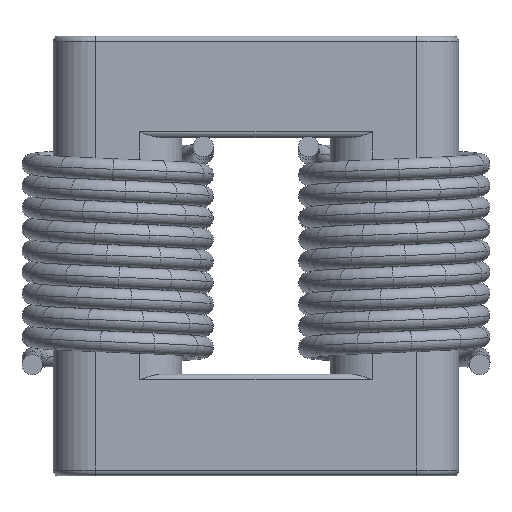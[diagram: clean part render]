
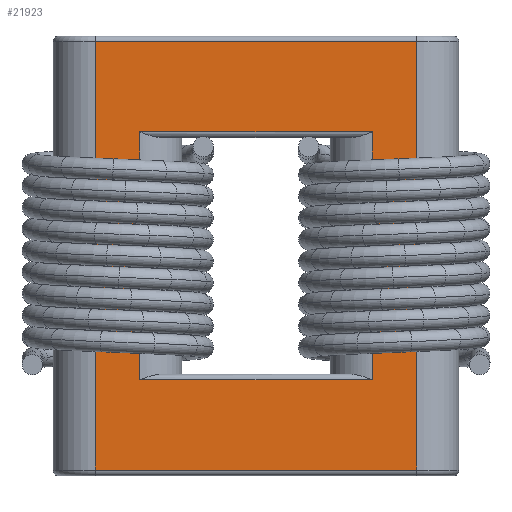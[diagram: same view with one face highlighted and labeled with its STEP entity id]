
A CAD part, top view. The second image highlights one B-rep face of the part: STEP entity #21923.
In plain terms, the highlighted planar face has unit normal (0, 0, 1).
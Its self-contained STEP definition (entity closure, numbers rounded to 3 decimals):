
#24 = CARTESIAN_POINT ( 'NONE',  ( -6.91, 6.658, 26.85 ) ) ;
#224 = LINE ( 'NONE', #2067, #2548 ) ;
#1381 = LINE ( 'NONE', #13357, #4581 ) ;
#1826 = VERTEX_POINT ( 'NONE', #8117 ) ;
#2067 = CARTESIAN_POINT ( 'NONE',  ( -0.71, 6.658, 26.85 ) ) ;
#2204 = VERTEX_POINT ( 'NONE', #22219 ) ;
#2242 = CARTESIAN_POINT ( 'NONE',  ( 7.84, 11.758, 26.85 ) ) ;
#2385 = EDGE_CURVE ( 'NONE', #2204, #4490, #17476, .T. ) ;
#2414 = VECTOR ( 'NONE', #20864, 1000. ) ;
#2548 = VECTOR ( 'NONE', #8993, 1000. ) ;
#2804 = VERTEX_POINT ( 'NONE', #12730 ) ;
#3232 = EDGE_LOOP ( 'NONE', ( #14531, #3710, #19086, #7860 ) ) ;
#3347 = LINE ( 'NONE', #17435, #10494 ) ;
#3391 = CARTESIAN_POINT ( 'NONE',  ( 7.84, -11.342, 26.85 ) ) ;
#3710 = ORIENTED_EDGE ( 'NONE', *, *, #12664, .T. ) ;
#4490 = VERTEX_POINT ( 'NONE', #24 ) ;
#4581 = VECTOR ( 'NONE', #5778, 1000. ) ;
#4937 = LINE ( 'NONE', #20895, #17416 ) ;
#5442 = PLANE ( 'NONE',  #10916 ) ;
#5583 = CARTESIAN_POINT ( 'NONE',  ( 5.49, -6.542, 26.85 ) ) ;
#5778 = DIRECTION ( 'NONE',  ( 1., 0., 0. ) ) ;
#6262 = DIRECTION ( 'NONE',  ( -1., 0., 0. ) ) ;
#7240 = EDGE_CURVE ( 'NONE', #17887, #2204, #3347, .T. ) ;
#7268 = VECTOR ( 'NONE', #15012, 1000. ) ;
#7441 = VERTEX_POINT ( 'NONE', #23986 ) ;
#7485 = ORIENTED_EDGE ( 'NONE', *, *, #2385, .T. ) ;
#7492 = CARTESIAN_POINT ( 'NONE',  ( -0.71, 0.058, 26.85 ) ) ;
#7860 = ORIENTED_EDGE ( 'NONE', *, *, #10053, .T. ) ;
#7985 = ORIENTED_EDGE ( 'NONE', *, *, #20927, .T. ) ;
#8117 = CARTESIAN_POINT ( 'NONE',  ( -9.26, -11.342, 26.85 ) ) ;
#8148 = LINE ( 'NONE', #2242, #2414 ) ;
#8199 = EDGE_CURVE ( 'NONE', #11166, #11147, #8148, .T. ) ;
#8266 = VECTOR ( 'NONE', #19337, 1000. ) ;
#8798 = CARTESIAN_POINT ( 'NONE',  ( 7.84, 11.458, 26.85 ) ) ;
#8993 = DIRECTION ( 'NONE',  ( 1., 0., 0. ) ) ;
#9165 = DIRECTION ( 'NONE',  ( 1., 0., 0. ) ) ;
#9924 = CARTESIAN_POINT ( 'NONE',  ( -9.26, -11.642, 26.85 ) ) ;
#10053 = EDGE_CURVE ( 'NONE', #1826, #11166, #1381, .T. ) ;
#10494 = VECTOR ( 'NONE', #6262, 1000. ) ;
#10606 = EDGE_LOOP ( 'NONE', ( #7485, #7985, #20439, #21383 ) ) ;
#10916 = AXIS2_PLACEMENT_3D ( 'NONE', #7492, #11037, #9165 ) ;
#11037 = DIRECTION ( 'NONE',  ( 0., 0., 1. ) ) ;
#11147 = VERTEX_POINT ( 'NONE', #8798 ) ;
#11166 = VERTEX_POINT ( 'NONE', #3391 ) ;
#11448 = CARTESIAN_POINT ( 'NONE',  ( -6.91, 0.058, 26.85 ) ) ;
#11542 = EDGE_CURVE ( 'NONE', #7441, #1826, #13210, .T. ) ;
#12664 = EDGE_CURVE ( 'NONE', #11147, #7441, #16648, .T. ) ;
#12730 = CARTESIAN_POINT ( 'NONE',  ( 5.49, 6.658, 26.85 ) ) ;
#13210 = LINE ( 'NONE', #9924, #8266 ) ;
#13357 = CARTESIAN_POINT ( 'NONE',  ( 7.84, -11.342, 26.85 ) ) ;
#14002 = FACE_BOUND ( 'NONE', #10606, .T. ) ;
#14531 = ORIENTED_EDGE ( 'NONE', *, *, #8199, .T. ) ;
#15012 = DIRECTION ( 'NONE',  ( 0., 1., 0. ) ) ;
#15226 = DIRECTION ( 'NONE',  ( 0., -1., 0. ) ) ;
#16371 = FACE_OUTER_BOUND ( 'NONE', #3232, .T. ) ;
#16648 = LINE ( 'NONE', #19445, #23284 ) ;
#17416 = VECTOR ( 'NONE', #15226, 1000. ) ;
#17435 = CARTESIAN_POINT ( 'NONE',  ( -0.71, -6.542, 26.85 ) ) ;
#17476 = LINE ( 'NONE', #11448, #7268 ) ;
#17887 = VERTEX_POINT ( 'NONE', #5583 ) ;
#19086 = ORIENTED_EDGE ( 'NONE', *, *, #11542, .T. ) ;
#19337 = DIRECTION ( 'NONE',  ( 0., -1., 0. ) ) ;
#19445 = CARTESIAN_POINT ( 'NONE',  ( -9.26, 11.458, 26.85 ) ) ;
#20439 = ORIENTED_EDGE ( 'NONE', *, *, #23505, .T. ) ;
#20864 = DIRECTION ( 'NONE',  ( 0., 1., 0. ) ) ;
#20895 = CARTESIAN_POINT ( 'NONE',  ( 5.49, 0.058, 26.85 ) ) ;
#20927 = EDGE_CURVE ( 'NONE', #4490, #2804, #224, .T. ) ;
#21383 = ORIENTED_EDGE ( 'NONE', *, *, #7240, .T. ) ;
#21510 = DIRECTION ( 'NONE',  ( -1., 0., 0. ) ) ;
#21923 = ADVANCED_FACE ( 'NONE', ( #14002, #16371 ), #5442, .T. ) ;
#22219 = CARTESIAN_POINT ( 'NONE',  ( -6.91, -6.542, 26.85 ) ) ;
#23284 = VECTOR ( 'NONE', #21510, 1000. ) ;
#23505 = EDGE_CURVE ( 'NONE', #2804, #17887, #4937, .T. ) ;
#23986 = CARTESIAN_POINT ( 'NONE',  ( -9.26, 11.458, 26.85 ) ) ;
